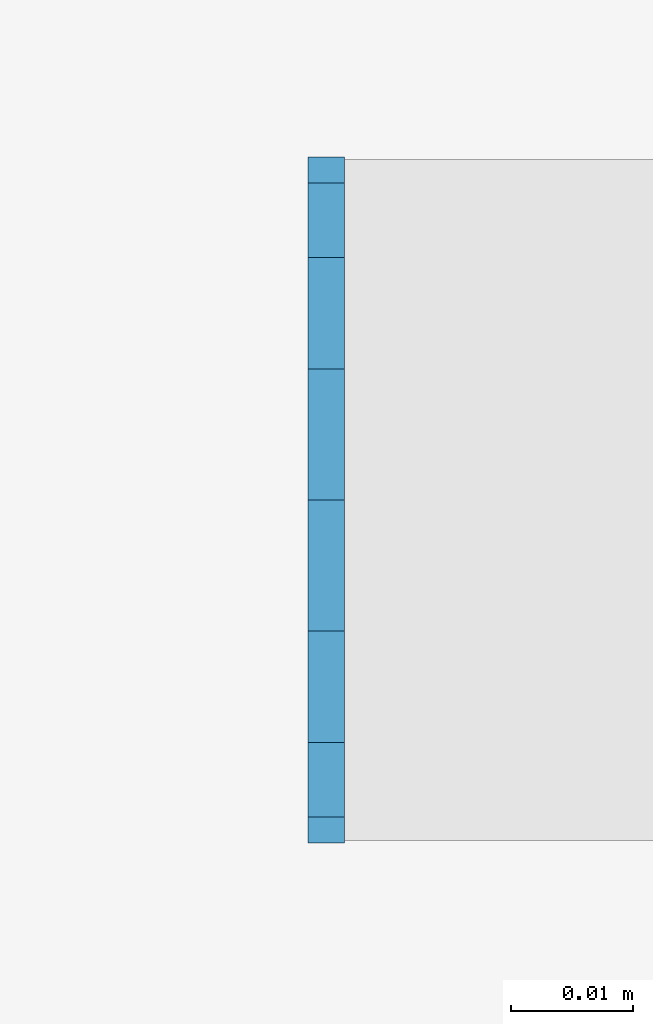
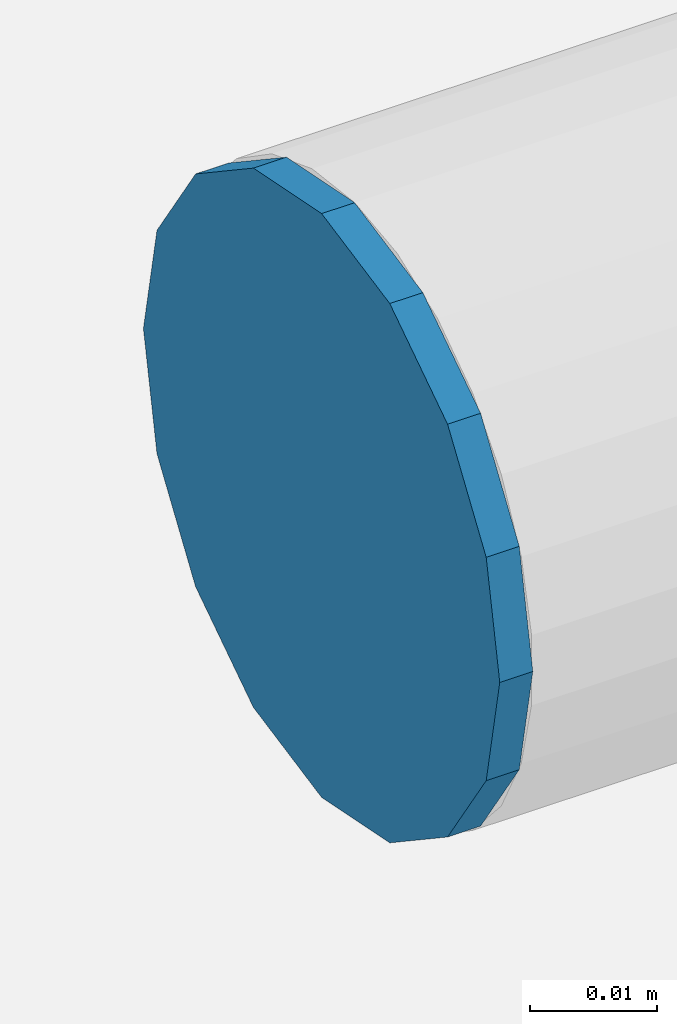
# One storey, part 36 of 230: 1 beam.
"""IFC4X3_ADD2 building model written with IfcOpenShell, lengths in millimetres."""

from ifc_helpers import new_model, si_unit, direction, frame, origin_with_axes, place, context, subcontext, project, spatial, indexed_curve, outline, extrude, material, element, save


model = new_model("IFC4X3_ADD2")

# Units and contexts
model_context = context("Model", 3, precision=1e-05, world=origin_with_axes(), true_north=direction((0.0, 1.0)))
body_context = subcontext(model_context, "Body", "Model", "MODEL_VIEW")
ifc_project = project(units=[si_unit("LENGTHUNIT", "METRE", prefix="MILLI"), si_unit("AREAUNIT", "SQUARE_METRE"), si_unit("VOLUMEUNIT", "CUBIC_METRE"), si_unit("PLANEANGLEUNIT", "RADIAN"), si_unit("TIMEUNIT", "SECOND"), si_unit("MASSUNIT", "GRAM")], contexts=[model_context])

# Site, building, storey
site_placement = place(None, origin_with_axes())
site = spatial("IfcSite", under=ifc_project, at=site_placement, Name="Site", CompositionType="ELEMENT")
building_placement = place(site_placement, origin_with_axes())
building = spatial("IfcBuilding", under=site, at=building_placement, Name="IFC Building Story")
storey_placement = place(building_placement, origin_with_axes())
storey = spatial("IfcBuildingStorey", under=building, at=storey_placement, Name="ETAGE 00 (0)", Elevation=0.0)

# Beam
ifc_material = material(Name="STEEL/Accessory 22919")
beam_placement = place(storey_placement, frame((27564.1886362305, 349.9999637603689, 1190.0), z_axis=(-1.0, 0.0, 0.0), x_axis=(0.0, 0.1950903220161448, 0.9807852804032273)))
element("IfcBeam", 1, at=beam_placement, inside=storey, material=ifc_material, Name="TA4", ObjectType="D56", context=body_context, shape_type="SweptSolid", body=[
    extrude(outline(indexed_curve([(23.28114914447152, 15.55596652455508), (27.46198785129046, 5.462529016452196), (27.46198785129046, -5.462529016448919), (23.28114914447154, -15.55596652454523), (15.55596652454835, -23.28114914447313), (5.462529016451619, -27.46198785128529), (-5.462529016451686, -27.46198785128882), (-15.55596652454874, -23.28114914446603), (-23.2811491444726, -15.55596652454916), (-27.46198785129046, -5.462529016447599), (-27.46198785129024, 5.462529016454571), (-23.28114914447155, 15.55596652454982), (-15.55596652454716, 23.28114914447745), (-5.462529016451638, 27.46198785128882), (5.462529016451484, 27.46198785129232), (15.55596652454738, 23.28114914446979), (23.28114914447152, 15.55596652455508)])), origin_with_axes(), (0.0, 0.0, 1.0), 2.999999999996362),
])

save(model, "model.ifc")
